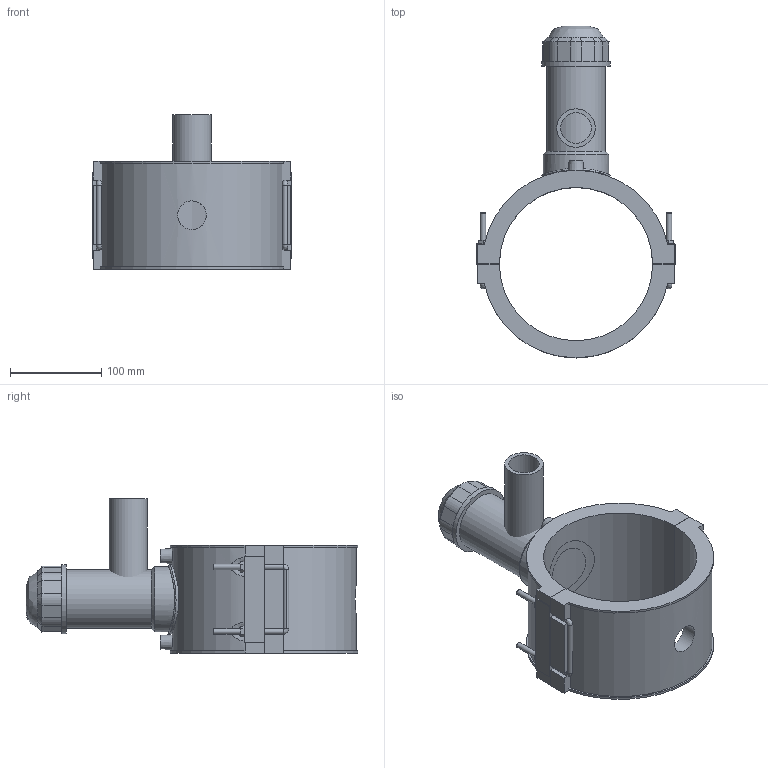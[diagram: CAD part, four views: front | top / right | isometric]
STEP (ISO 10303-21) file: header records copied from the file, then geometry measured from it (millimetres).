
FILE_DESCRIPTION(/* description */ ('PLASSON TAPPING SADDLE 6''''IPS x 1 1/4''''IPS'),/* implementation_level */ '2;1');
FILE_NAME(/* name */ 'C:\Dropbox\KIMPROJECTS-Inventor 2019\99-16-3568-Processing Inch\ASTM ElectroFusion 2021\5963BBP_5963BUP\5963BBP3060013.ipt.stp',/* time_stamp */ '2021-08-30T09:57:19+03:00',/* author */ ('KIM'),/* organization */ (''),/* preprocessor_version */ 'ST-DEVELOPER v17.2',/* originating_system */ 'Autodesk Inventor 2019',/* authorisation */ '');
FILE_SCHEMA (('AUTOMOTIVE_DESIGN { 1 0 10303 214 3 1 1 }'));
Length unit declared in the file: inch
Products named in the file (1): 5963BBP3060013
Bounding box: 217.9 x 363.85 x 169.04 mm (x, y, z)
Volume: 1640114.2 mm3; surface area: 284552.4 mm2
Topology: 3 solids, 3 shells, 187 faces, 489 edges, 313 vertices
Faces by surface type: plane 115, cylinder 47, cone 15, bspline 10
Full cylindrical faces by diameter (mm): 4 x2, 6 x8, 10 x2, 31.36 x1, 33.68 x1, 42.1 x1, 52.92 x1, 64.26 x1, 71.82 x1, 75.6 x2
Entity records: 6744 total; most frequent: CARTESIAN_POINT 2109, ORIENTED_EDGE 962, DIRECTION 932, EDGE_CURVE 481, AXIS2_PLACEMENT_3D 315, VERTEX_POINT 313, LINE 302, VECTOR 302
